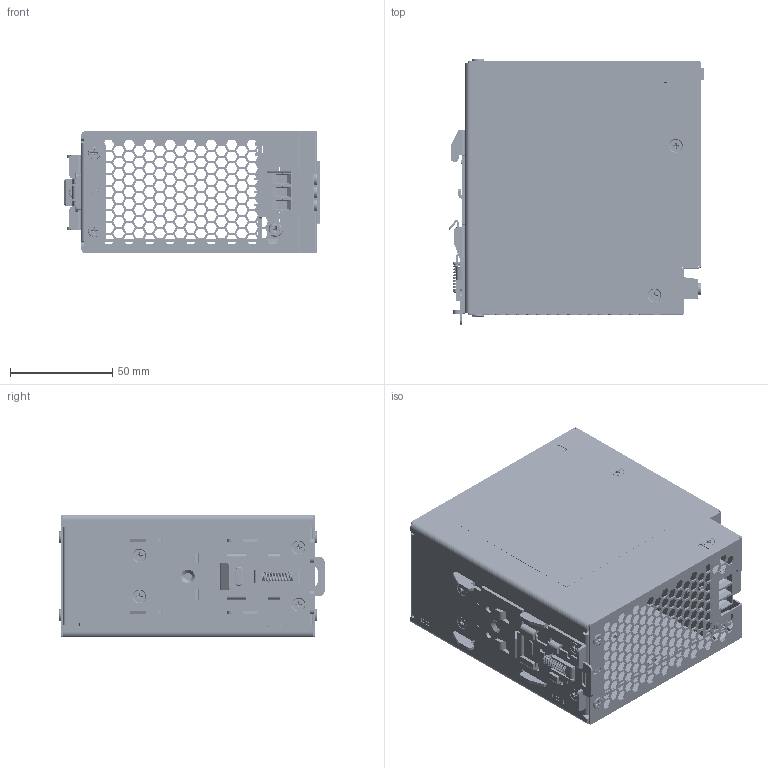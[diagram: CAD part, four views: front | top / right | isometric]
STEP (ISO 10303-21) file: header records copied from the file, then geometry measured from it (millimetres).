
FILE_DESCRIPTION((''),'2;1');
FILE_NAME('DRP-24V240W1CAN-PD00_ASM','2018-08-07T',('Nut.Phor'),(''),'PRO/ENGINEER BY PARAMETRIC TECHNOLOGY CORPORATION, 2010180','PRO/ENGINEER BY PARAMETRIC TECHNOLOGY CORPORATION, 2010180','');
FILE_SCHEMA(('CONFIG_CONTROL_DESIGN','SHAPE_APPEARANCE_LAYERS_GROUPS'));
Products named in the file (37): 2948014601_MAIN-BOARD; 3461420800; EE_LED_GREEN; EE_VR701; 3352085700; 2969806901_ADC-069; 4-1; 4-2; 4-3_AF0; 307662657W_CN1_CLIQ3_ASM; 3350940600_CLIQ3; ASSY_ADC-069_ASM; 307301387W_A1-1; 307301387W_A1-2; 307301387W_A1-3; 307301387W_A1_ASM; 307301387W_CLIQ3_ASM; 2969807201_ADC-072; 3350940600; ASSY_ADC-072_ASM; ASSY_MAINBOARD_ASM; 330335150000; ASSY_CHASSIS_ASM; 3100000600; 3105293900; 330323380101; ASSY_COVER_ASM; 3105039100; 324395240000; 346654410101; 346008810000; 346202620000; ASSY_BASE-LATCH-SPRING_ASM; 326820910000; 3261842100_ADDRESSLABEL; 326333400101; DRP-24V240W1CAN-PD00_ASM
Assembly tree (51 placements, depth 6):
  DRP-24V240W1CAN-PD00_ASM
    ASSY_MAINBOARD_ASM
      2948014601_MAIN-BOARD
      3461420800
      EE_LED_GREEN
      EE_VR701
      3352085700
      ASSY_ADC-069_ASM
        2969806901_ADC-069
        307662657W_CN1_CLIQ3_ASM
          4-1
          4-2  x2
          4-3_AF0
        3350940600_CLIQ3
      ASSY_ADC-072_ASM
        307301387W_CLIQ3_ASM
          307301387W_A1_ASM  x3
            307301387W_A1-1
            307301387W_A1-2
            307301387W_A1-3
        2969807201_ADC-072
        3350940600
    ASSY_CHASSIS_ASM
      330335150000
    3100000600  x8
    3105293900
    ASSY_COVER_ASM
      330323380101
    3105039100  x4
    324395240000
    ASSY_BASE-LATCH-SPRING_ASM
      346654410101
      346008810000
      346202620000
    326820910000
    3261842100_ADDRESSLABEL
    326333400101
Bounding box: 125.14 x 130 x 60.08 mm (x, y, z)
Volume: 118260.3 mm3; surface area: 219377.9 mm2
Topology: 55 solids, 55 shells, 8301 faces, 22624 edges, 14581 vertices
Faces by surface type: plane 5501, cylinder 1187, extrusion 1128, bspline 255, torus 124, cone 106
Entity records: 313605 total; most frequent: CARTESIAN_POINT 61810, ORIENTED_EDGE 34304, DIRECTION 28304, PRESENTATION_STYLE_ASSIGNMENT 18113, EDGE_CURVE 17152, VECTOR 14182, STYLED_ITEM 13765, CURVE_STYLE 13615
